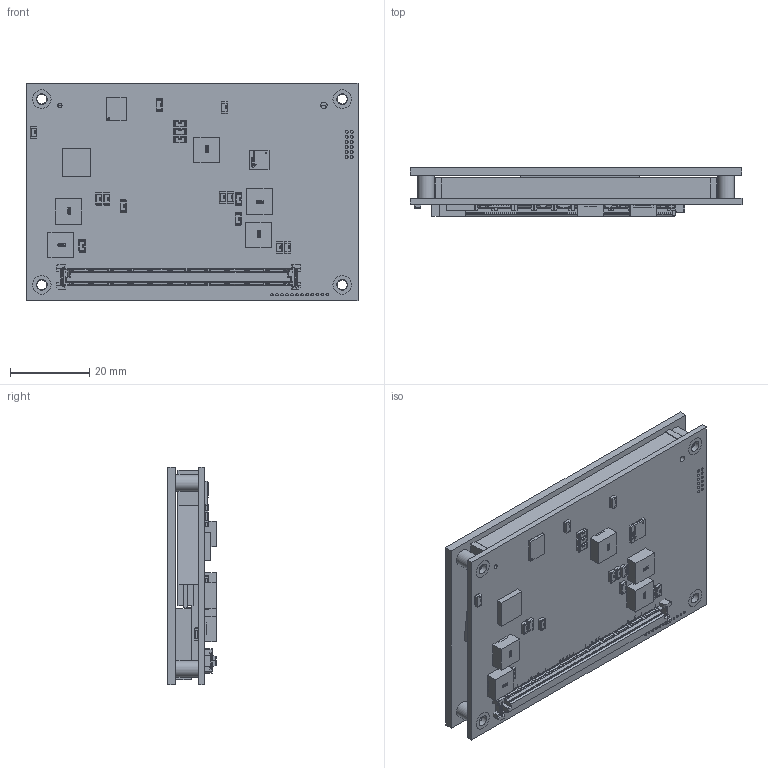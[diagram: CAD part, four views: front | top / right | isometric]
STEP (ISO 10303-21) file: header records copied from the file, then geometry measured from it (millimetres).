
FILE_DESCRIPTION (( 'STEP AP214' ), '1' );
FILE_NAME ('CM-COMEX-A420_Rev_1.1_assembly.STEP', '2015-06-28T16:11:57', ( '' ), ( '' ), 'SwSTEP 2.0', 'SolidWorks 2014', '' );
FILE_SCHEMA (( 'AUTOMOTIVE_DESIGN' ));
Length unit declared in the file: millimetre
Products named in the file (10): TSOS-M25-8(PEM); HS-2015-03 & 04 (Main Plate A420)_thread M2.5; sos-43.1-8; HS-2015-06 (Small Plate A420); 206B10350 & 60 (HEAT SPREADER A420)_THREAD; MS20426 AD3-6(L=6.8); CM-COMEX-A420_Rev_1.1_part; Main Plate PCB 1; F-M2.5-1; CM-COMEX-A420_Rev_1.1_assembly
Assembly tree (17 placements, depth 4):
  CM-COMEX-A420_Rev_1.1_assembly
    CM-COMEX-A420_Rev_1.1_part
    206B10350 & 60 (HEAT SPREADER A420)_THREAD
      HS-2015-03 & 04 (Main Plate A420)_thread M2.5
        Main Plate PCB 1
        TSOS-M25-8(PEM)  x4
        sos-43.1-8
        F-M2.5-1  x4
      MS20426 AD3-6(L=6.8)  x3
      HS-2015-06 (Small Plate A420)
Bounding box: 84 x 12.31 x 55 mm (x, y, z)
Volume: 11559.6 mm3; surface area: 29795.9 mm2
Topology: 14 solids, 294 shells, 1999 faces, 10241 edges, 8330 vertices
Faces by surface type: plane 1371, cylinder 528, sphere 77, cone 18, bspline 5
Full cylindrical faces by diameter (mm): 0.4 x1, 0.45 x1, 0.6 x1, 0.61 x12, 0.711 x12, 0.9 x1, 1.092 x1, 1.6 x2, 2.46 x3, 2.5 x8, 2.6 x6, 2.692 x4, 3.1 x1, 4.2 x5, 4.22 x4, 4.35 x4, 4.37 x4
Entity records: 137627 total; most frequent: CARTESIAN_POINT 42968, DIRECTION 13386, ORIENTED_EDGE 12596, EDGE_CURVE 9965, VERTEX_POINT 8237, VECTOR 7318, LINE 7318, AXIS2_PLACEMENT_3D 3034
